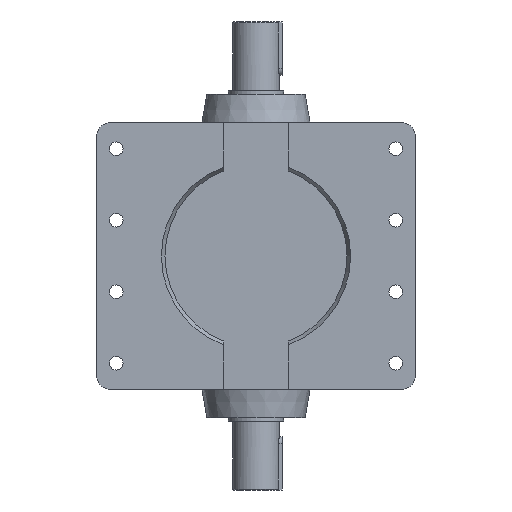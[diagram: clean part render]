
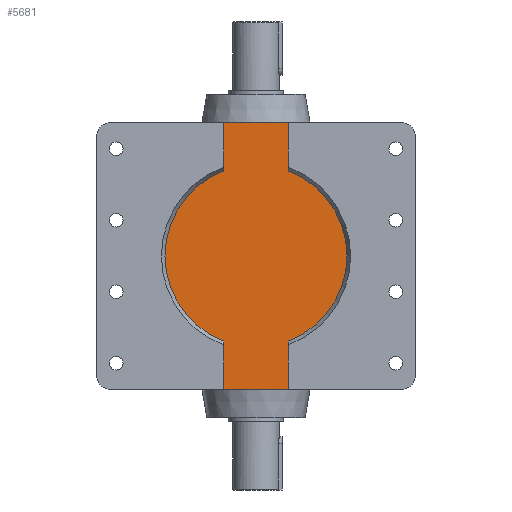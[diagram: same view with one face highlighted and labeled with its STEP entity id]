
A CAD part, front view. The second image highlights one B-rep face of the part: STEP entity #5681.
In plain terms, the highlighted planar face has unit normal (0, -1, 0).
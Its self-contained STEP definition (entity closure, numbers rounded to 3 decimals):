
#709 = CARTESIAN_POINT ( 'NONE',  ( -50., -235.4, -205. ) ) ;
#969 = ORIENTED_EDGE ( 'NONE', *, *, #8100, .F. ) ;
#1224 = CARTESIAN_POINT ( 'NONE',  ( 0., -235.4, 0. ) ) ;
#1429 = DIRECTION ( 'NONE',  ( 0., 0., -1. ) ) ;
#1463 = VECTOR ( 'NONE', #1429, 1000. ) ;
#1495 = VERTEX_POINT ( 'NONE', #1642 ) ;
#1558 = DIRECTION ( 'NONE',  ( 0., 0., -1. ) ) ;
#1642 = CARTESIAN_POINT ( 'NONE',  ( -50., -235.4, 130.767 ) ) ;
#1894 = AXIS2_PLACEMENT_3D ( 'NONE', #15995, #14730, #5679 ) ;
#2136 = CARTESIAN_POINT ( 'NONE',  ( 50., -235.4, 305.46 ) ) ;
#2191 = LINE ( 'NONE', #7135, #5169 ) ;
#2863 = EDGE_CURVE ( 'NONE', #13555, #16044, #9937, .T. ) ;
#3694 = AXIS2_PLACEMENT_3D ( 'NONE', #13522, #7156, #8359 ) ;
#4619 = LINE ( 'NONE', #16015, #8865 ) ;
#4653 = EDGE_CURVE ( 'NONE', #7968, #11542, #4619, .T. ) ;
#4726 = PLANE ( 'NONE',  #5337 ) ;
#4849 = VERTEX_POINT ( 'NONE', #11750 ) ;
#5169 = VECTOR ( 'NONE', #16325, 1000. ) ;
#5337 = AXIS2_PLACEMENT_3D ( 'NONE', #1224, #6258, #12863 ) ;
#5373 = LINE ( 'NONE', #2136, #8004 ) ;
#5553 = EDGE_CURVE ( 'NONE', #11542, #13555, #2191, .T. ) ;
#5679 = DIRECTION ( 'NONE',  ( 0., 0., 1. ) ) ;
#5681 = ADVANCED_FACE ( 'NONE', ( #7382 ), #4726, .F. ) ;
#5846 = CARTESIAN_POINT ( 'NONE',  ( 50., -235.4, -205. ) ) ;
#6178 = CARTESIAN_POINT ( 'NONE',  ( 50., -235.4, -130.767 ) ) ;
#6258 = DIRECTION ( 'NONE',  ( 0., 1., 0. ) ) ;
#6355 = VECTOR ( 'NONE', #12846, 1000. ) ;
#6641 = VERTEX_POINT ( 'NONE', #709 ) ;
#7135 = CARTESIAN_POINT ( 'NONE',  ( 50., -235.4, 305.46 ) ) ;
#7156 = DIRECTION ( 'NONE',  ( 0., 1., 0. ) ) ;
#7382 = FACE_OUTER_BOUND ( 'NONE', #7571, .T. ) ;
#7571 = EDGE_LOOP ( 'NONE', ( #16630, #12509, #8154, #14710, #8385, #969, #14833, #14885 ) ) ;
#7968 = VERTEX_POINT ( 'NONE', #16785 ) ;
#8004 = VECTOR ( 'NONE', #1558, 1000. ) ;
#8100 = EDGE_CURVE ( 'NONE', #4849, #1495, #14263, .T. ) ;
#8154 = ORIENTED_EDGE ( 'NONE', *, *, #5553, .F. ) ;
#8194 = DIRECTION ( 'NONE',  ( 1., 0., 0. ) ) ;
#8359 = DIRECTION ( 'NONE',  ( 0., 0., 1. ) ) ;
#8385 = ORIENTED_EDGE ( 'NONE', *, *, #12505, .T. ) ;
#8865 = VECTOR ( 'NONE', #8194, 1000. ) ;
#9049 = LINE ( 'NONE', #5846, #15764 ) ;
#9545 = DIRECTION ( 'NONE',  ( 1., 0., 0. ) ) ;
#9758 = CARTESIAN_POINT ( 'NONE',  ( 50., -235.4, 130.767 ) ) ;
#9937 = CIRCLE ( 'NONE', #3694, 140. ) ;
#10154 = CARTESIAN_POINT ( 'NONE',  ( -50., -235.4, 305.46 ) ) ;
#10368 = LINE ( 'NONE', #15602, #1463 ) ;
#11542 = VERTEX_POINT ( 'NONE', #12430 ) ;
#11750 = CARTESIAN_POINT ( 'NONE',  ( -50., -235.4, -130.767 ) ) ;
#12081 = EDGE_CURVE ( 'NONE', #6641, #15735, #9049, .T. ) ;
#12430 = CARTESIAN_POINT ( 'NONE',  ( 50., -235.4, 205. ) ) ;
#12505 = EDGE_CURVE ( 'NONE', #7968, #1495, #12926, .T. ) ;
#12509 = ORIENTED_EDGE ( 'NONE', *, *, #2863, .F. ) ;
#12667 = EDGE_CURVE ( 'NONE', #16044, #15735, #5373, .T. ) ;
#12846 = DIRECTION ( 'NONE',  ( 0., 0., -1. ) ) ;
#12863 = DIRECTION ( 'NONE',  ( 0., 0., 1. ) ) ;
#12926 = LINE ( 'NONE', #10154, #6355 ) ;
#13522 = CARTESIAN_POINT ( 'NONE',  ( 0., -235.4, 0. ) ) ;
#13555 = VERTEX_POINT ( 'NONE', #9758 ) ;
#14263 = CIRCLE ( 'NONE', #1894, 140. ) ;
#14710 = ORIENTED_EDGE ( 'NONE', *, *, #4653, .F. ) ;
#14730 = DIRECTION ( 'NONE',  ( 0., 1., 0. ) ) ;
#14833 = ORIENTED_EDGE ( 'NONE', *, *, #15779, .T. ) ;
#14885 = ORIENTED_EDGE ( 'NONE', *, *, #12081, .T. ) ;
#15602 = CARTESIAN_POINT ( 'NONE',  ( -50., -235.4, 305.46 ) ) ;
#15735 = VERTEX_POINT ( 'NONE', #16571 ) ;
#15764 = VECTOR ( 'NONE', #9545, 1000. ) ;
#15779 = EDGE_CURVE ( 'NONE', #4849, #6641, #10368, .T. ) ;
#15995 = CARTESIAN_POINT ( 'NONE',  ( 0., -235.4, 0. ) ) ;
#16015 = CARTESIAN_POINT ( 'NONE',  ( 50., -235.4, 205. ) ) ;
#16044 = VERTEX_POINT ( 'NONE', #6178 ) ;
#16325 = DIRECTION ( 'NONE',  ( 0., 0., -1. ) ) ;
#16571 = CARTESIAN_POINT ( 'NONE',  ( 50., -235.4, -205. ) ) ;
#16630 = ORIENTED_EDGE ( 'NONE', *, *, #12667, .F. ) ;
#16785 = CARTESIAN_POINT ( 'NONE',  ( -50., -235.4, 205. ) ) ;
